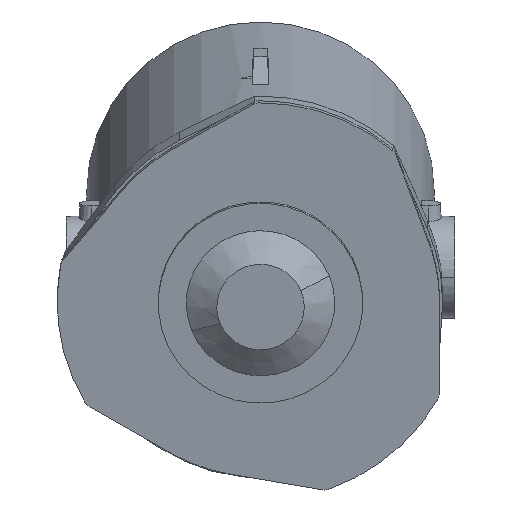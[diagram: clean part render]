
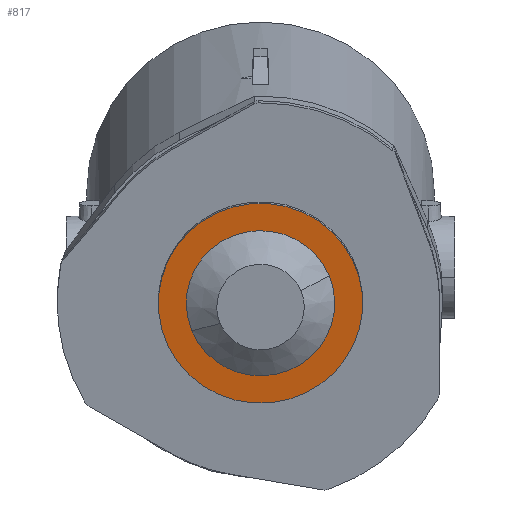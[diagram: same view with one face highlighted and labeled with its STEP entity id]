
A CAD part, left-side view. The second image highlights one B-rep face of the part: STEP entity #817.
In plain terms, the highlighted planar face has unit normal (-0.978, 0, -0.208).
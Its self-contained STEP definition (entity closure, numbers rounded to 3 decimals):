
#48 = DIRECTION ( 'NONE',  ( -0.978, 0., -0.208 ) ) ;
#66 = CIRCLE ( 'NONE', #1785, 100. ) ;
#455 = CARTESIAN_POINT ( 'NONE',  ( -513.807, -194., 602.863 ) ) ;
#580 = CIRCLE ( 'NONE', #2118, 72.608 ) ;
#587 = VERTEX_POINT ( 'NONE', #4801 ) ;
#793 = EDGE_LOOP ( 'NONE', ( #4872, #3494 ) ) ;
#817 = ADVANCED_FACE ( 'NONE', ( #1078, #4361 ), #3158, .T. ) ;
#851 = CARTESIAN_POINT ( 'NONE',  ( -513.807, -194., 602.863 ) ) ;
#883 = CARTESIAN_POINT ( 'NONE',  ( -512.191, -293.698, 595.262 ) ) ;
#959 = CARTESIAN_POINT ( 'NONE',  ( -513.807, -194., 602.863 ) ) ;
#1078 = FACE_BOUND ( 'NONE', #793, .T. ) ;
#1157 = DIRECTION ( 'NONE',  ( -0.978, 0., -0.208 ) ) ;
#1390 = DIRECTION ( 'NONE',  ( -0.978, 0., -0.208 ) ) ;
#1432 = AXIS2_PLACEMENT_3D ( 'NONE', #851, #2834, #2483 ) ;
#1451 = DIRECTION ( 'NONE',  ( -0.208, 0., 0.978 ) ) ;
#1558 = CARTESIAN_POINT ( 'NONE',  ( -499.583, -222.212, 535.947 ) ) ;
#1588 = AXIS2_PLACEMENT_3D ( 'NONE', #1558, #1157, #1451 ) ;
#1772 = AXIS2_PLACEMENT_3D ( 'NONE', #959, #1390, #3744 ) ;
#1785 = AXIS2_PLACEMENT_3D ( 'NONE', #5068, #1873, #4750 ) ;
#1873 = DIRECTION ( 'NONE',  ( -0.978, 0., -0.208 ) ) ;
#2118 = AXIS2_PLACEMENT_3D ( 'NONE', #455, #48, #3258 ) ;
#2483 = DIRECTION ( 'NONE',  ( 0.079, 0.924, -0.373 ) ) ;
#2834 = DIRECTION ( 'NONE',  ( -0.978, 0., -0.208 ) ) ;
#3158 = PLANE ( 'NONE',  #1588 ) ;
#3203 = ORIENTED_EDGE ( 'NONE', *, *, #5214, .T. ) ;
#3258 = DIRECTION ( 'NONE',  ( 0.079, 0.924, -0.373 ) ) ;
#3424 = CARTESIAN_POINT ( 'NONE',  ( -515.423, -94.302, 610.464 ) ) ;
#3494 = ORIENTED_EDGE ( 'NONE', *, *, #4071, .F. ) ;
#3614 = VERTEX_POINT ( 'NONE', #4543 ) ;
#3631 = VERTEX_POINT ( 'NONE', #883 ) ;
#3744 = DIRECTION ( 'NONE',  ( 0.079, 0.924, -0.373 ) ) ;
#4021 = EDGE_CURVE ( 'NONE', #4289, #3631, #5268, .T. ) ;
#4071 = EDGE_CURVE ( 'NONE', #3614, #587, #580, .T. ) ;
#4183 = EDGE_CURVE ( 'NONE', #587, #3614, #4837, .T. ) ;
#4289 = VERTEX_POINT ( 'NONE', #3424 ) ;
#4361 = FACE_OUTER_BOUND ( 'NONE', #5136, .T. ) ;
#4430 = ORIENTED_EDGE ( 'NONE', *, *, #4021, .T. ) ;
#4543 = CARTESIAN_POINT ( 'NONE',  ( -508.052, -126.876, 575.787 ) ) ;
#4750 = DIRECTION ( 'NONE',  ( 0.079, 0.924, -0.373 ) ) ;
#4801 = CARTESIAN_POINT ( 'NONE',  ( -519.562, -261.124, 629.939 ) ) ;
#4837 = CIRCLE ( 'NONE', #1772, 72.608 ) ;
#4872 = ORIENTED_EDGE ( 'NONE', *, *, #4183, .F. ) ;
#5068 = CARTESIAN_POINT ( 'NONE',  ( -513.807, -194., 602.863 ) ) ;
#5136 = EDGE_LOOP ( 'NONE', ( #3203, #4430 ) ) ;
#5214 = EDGE_CURVE ( 'NONE', #3631, #4289, #66, .T. ) ;
#5268 = CIRCLE ( 'NONE', #1432, 100. ) ;
